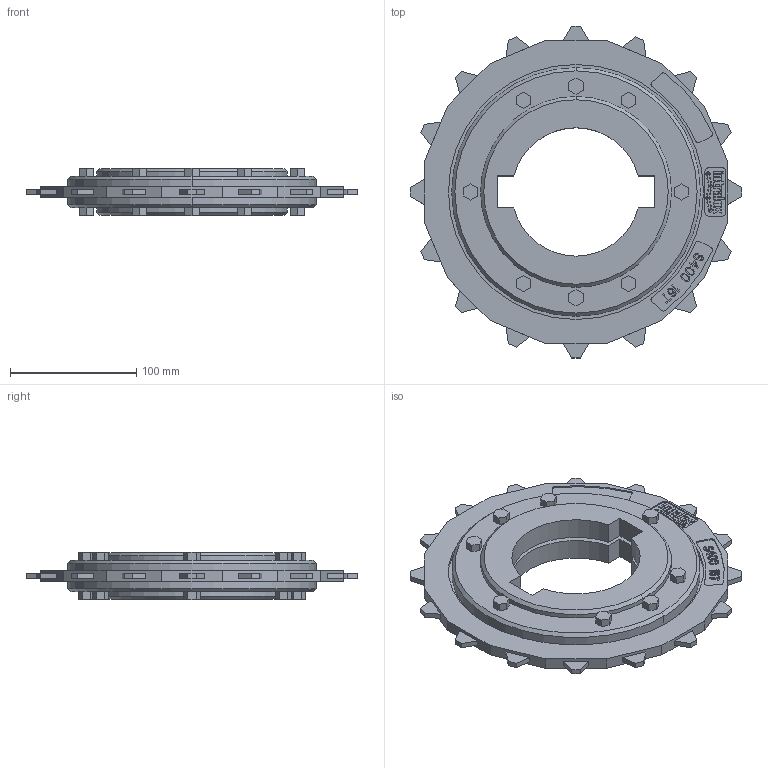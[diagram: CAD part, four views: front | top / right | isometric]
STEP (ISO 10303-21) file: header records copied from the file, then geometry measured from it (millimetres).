
FILE_DESCRIPTION((''),'2;1');
FILE_NAME('S400_SPL_PLASTIC_101X4_RND_ASM','2008-12-12T',('jmumphre'),(''),'PRO/ENGINEER BY PARAMETRIC TECHNOLOGY CORPORATION, 2008150','PRO/ENGINEER BY PARAMETRIC TECHNOLOGY CORPORATION, 2008150','');
FILE_SCHEMA(('CONFIG_CONTROL_DESIGN'));
Length unit declared in the file: inch
Products named in the file (5): JOINING_PLATE_8X4_ROUND_AF1; JOINING_PLATE_8X4_ROUND_AF0; S400_TP_PLASTIC_101_HYBRID_AF1; BOLTS_N_NUTS_6-595X0-984_AF3; S400_SPL_PLASTIC_101X4_RND_ASM
Assembly tree (4 placements, depth 2):
  S400_SPL_PLASTIC_101X4_RND_ASM
    JOINING_PLATE_8X4_ROUND_AF1
    JOINING_PLATE_8X4_ROUND_AF0
    S400_TP_PLASTIC_101_HYBRID_AF1
    BOLTS_N_NUTS_6-595X0-984_AF3
Bounding box: 262.89 x 262.89 x 37.69 mm (x, y, z)
Volume: 787691.8 mm3; surface area: 214799.8 mm2
Topology: 11 solids, 11 shells, 848 faces, 2272 edges, 1512 vertices
Faces by surface type: plane 645, cylinder 195, cone 8
Entity records: 26523 total; most frequent: CARTESIAN_POINT 4641, ORIENTED_EDGE 4544, DIRECTION 4384, EDGE_CURVE 2272, VECTOR 1874, LINE 1874, VERTEX_POINT 1512, AXIS2_PLACEMENT_3D 1255
